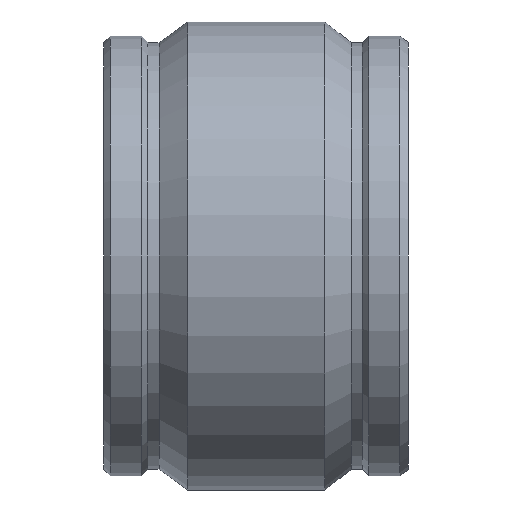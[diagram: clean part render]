
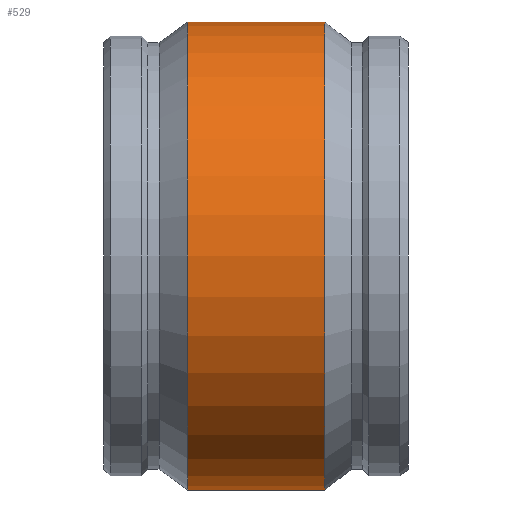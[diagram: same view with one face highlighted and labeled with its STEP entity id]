
A CAD part, front view. The second image highlights one B-rep face of the part: STEP entity #529.
In plain terms, the highlighted cylindrical face has radius 214.63 mm (diameter 429.26 mm), a full revolution.
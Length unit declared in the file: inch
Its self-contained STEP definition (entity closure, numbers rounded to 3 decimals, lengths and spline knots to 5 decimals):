
#50=LINE('',#992,#72);
#72=VECTOR('',#748,8.45);
#89=CYLINDRICAL_SURFACE('',#605,8.45);
#113=FACE_OUTER_BOUND('',#151,.T.);
#151=EDGE_LOOP('',(#421,#422,#423,#424,#425,#426));
#191=CIRCLE('',#603,8.45);
#192=CIRCLE('',#604,8.45);
#193=CIRCLE('',#606,8.45);
#194=CIRCLE('',#607,8.45);
#245=VERTEX_POINT('',#982);
#246=VERTEX_POINT('',#983);
#247=VERTEX_POINT('',#988);
#248=VERTEX_POINT('',#989);
#309=EDGE_CURVE('',#245,#246,#191,.T.);
#310=EDGE_CURVE('',#246,#245,#192,.T.);
#312=EDGE_CURVE('',#247,#248,#193,.T.);
#313=EDGE_CURVE('',#248,#247,#194,.T.);
#314=EDGE_CURVE('',#248,#246,#50,.T.);
#421=ORIENTED_EDGE('',*,*,#312,.F.);
#422=ORIENTED_EDGE('',*,*,#313,.F.);
#423=ORIENTED_EDGE('',*,*,#314,.T.);
#424=ORIENTED_EDGE('',*,*,#310,.T.);
#425=ORIENTED_EDGE('',*,*,#309,.T.);
#426=ORIENTED_EDGE('',*,*,#314,.F.);
#529=ADVANCED_FACE('',(#113),#89,.T.);
#603=AXIS2_PLACEMENT_3D('',#984,#737,#738);
#604=AXIS2_PLACEMENT_3D('',#985,#739,#740);
#605=AXIS2_PLACEMENT_3D('',#987,#742,#743);
#606=AXIS2_PLACEMENT_3D('',#990,#744,#745);
#607=AXIS2_PLACEMENT_3D('',#991,#746,#747);
#737=DIRECTION('center_axis',(1.,0.,0.));
#738=DIRECTION('ref_axis',(0.,0.,-1.));
#739=DIRECTION('center_axis',(1.,0.,0.));
#740=DIRECTION('ref_axis',(0.,0.,-1.));
#742=DIRECTION('center_axis',(1.,0.,0.));
#743=DIRECTION('ref_axis',(0.,1.,0.));
#744=DIRECTION('center_axis',(1.,0.,0.));
#745=DIRECTION('ref_axis',(0.,0.,-1.));
#746=DIRECTION('center_axis',(1.,0.,0.));
#747=DIRECTION('ref_axis',(0.,0.,-1.));
#748=DIRECTION('',(-1.,0.,0.));
#982=CARTESIAN_POINT('',(-2.465,8.45,0.));
#983=CARTESIAN_POINT('',(-2.465,-8.45,0.));
#984=CARTESIAN_POINT('Origin',(-2.465,0.,0.));
#985=CARTESIAN_POINT('Origin',(-2.465,0.,0.));
#987=CARTESIAN_POINT('Origin',(0.01,0.,0.));
#988=CARTESIAN_POINT('',(2.485,8.45,0.));
#989=CARTESIAN_POINT('',(2.485,-8.45,0.));
#990=CARTESIAN_POINT('Origin',(2.485,0.,0.));
#991=CARTESIAN_POINT('Origin',(2.485,0.,0.));
#992=CARTESIAN_POINT('',(0.01,-8.45,0.));
